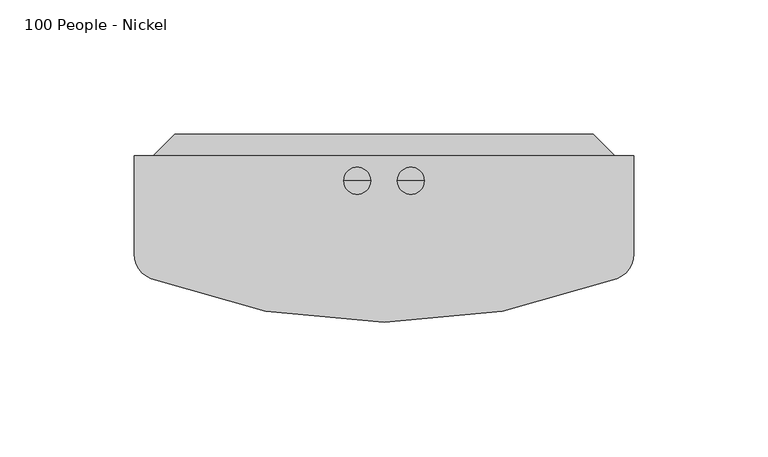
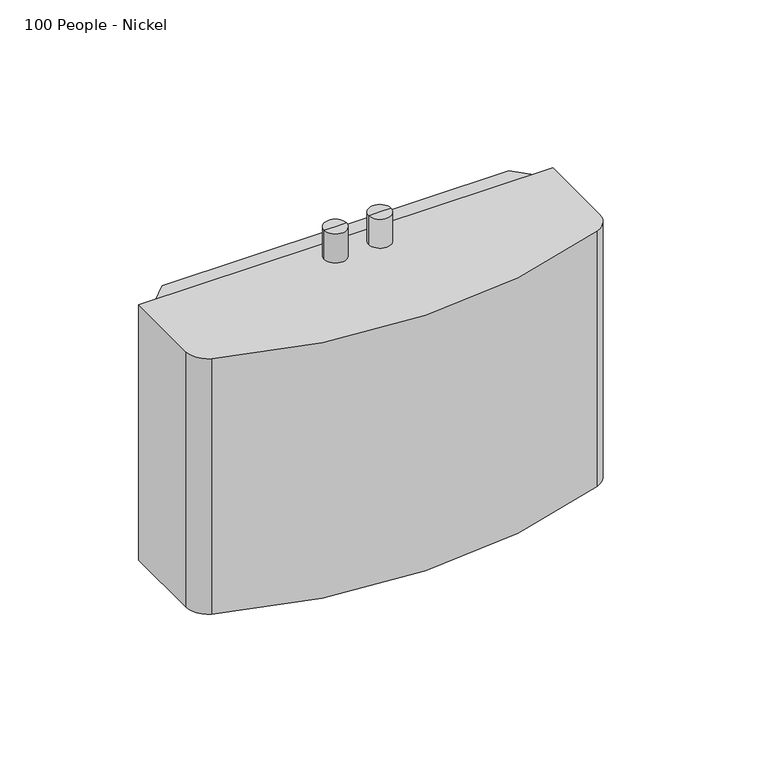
"""IFC4 building model written with IfcOpenShell, lengths in millimetres: flow terminal geometry, PlumFixt_Zip Commercial_Cube_BC : 100 People - Nickel."""

from ifc_helpers import new_model, si_unit, point, frame, frame_2d, origin, place, context, project, spatial, polyline, circle_curve, trimmed, segment, composite_curve, outline, extrude, source, transform, mapped, element, save
from ifc_brep_helpers import plane_surface, cylinder_surface, advanced_brep


def flow_terminal_100_people_nickel_19c471c0(model_context):
    return source(origin(), model_context, "Body", "SolidModel", [
        advanced_brep(
        [(-9.0, 248.188161, 673.0), (-14.0, 248.188161, 673.0), (-4.0, 248.188161, 673.0), (-4.0, 248.188161, 659.25), (-14.0, 248.188161, 659.25), (-9.0, 248.188161, 659.25)],
        [
            (0, 1),
            (1, 2, circle_curve(frame((-9.0, 248.188161, 673.0), z_axis=(0.0, 0.0, 1.0), x_axis=(-1.0, 0.0, 0.0)), 5.0)),
            (2, 0),
            (2, 1, circle_curve(frame((-9.0, 248.188161, 673.0), z_axis=(0.0, 0.0, 1.0), x_axis=(-1.0, 0.0, 0.0)), 5.0)),
            (3, 4, circle_curve(frame((-9.0, 248.188161, 659.25), z_axis=(0.0, 0.0, -1.0), x_axis=(-1.0, 0.0, 0.0)), 5.0)),
            (4, 5),
            (5, 3),
            (4, 3, circle_curve(frame((-9.0, 248.188161, 659.25), z_axis=(0.0, 0.0, -1.0), x_axis=(-1.0, 0.0, 0.0)), 5.0)),
            (1, 4),
            (3, 2),
        ],
        [
            plane_surface(frame((-9.0, 248.188161, 673.0), z_axis=(0.0, 0.0, 1.0), x_axis=(-1.0, 0.0, 0.0))),
            plane_surface(frame((-9.0, 248.188161, 659.25), z_axis=(0.0, 0.0, -1.0), x_axis=(-1.0, 0.0, 0.0))),
            cylinder_surface(frame((-9.0, 248.188161, 661.734876), z_axis=(0.0, 0.0, 1.0), x_axis=(-1.0, 0.0, 0.0)), 5.0),
        ],
        [
            (0, [[1, 2, 3]]),
            (0, [[-3, 4, -1]]),
            (1, [[5, 6, 7]]),
            (1, [[8, -7, -6]]),
            (2, [[-2, 9, -5, 10]]),
            (2, [[-4, -10, -8, -9]]),
        ],
    ),
        advanced_brep(
        [(6.0, 248.188161, 673.0), (16.0, 248.188161, 673.0), (11.0, 248.188161, 673.0), (11.0, 248.188161, 659.25), (16.0, 248.188161, 659.25), (6.0, 248.188161, 659.25)],
        [
            (0, 1, circle_curve(frame((11.0, 248.188161, 673.0), z_axis=(0.0, 0.0, 1.0), x_axis=(1.0, 0.0, 0.0)), 5.0)),
            (1, 2),
            (2, 0),
            (1, 0, circle_curve(frame((11.0, 248.188161, 673.0), z_axis=(0.0, 0.0, 1.0), x_axis=(1.0, 0.0, 0.0)), 5.0)),
            (3, 4),
            (4, 5, circle_curve(frame((11.0, 248.188161, 659.25), z_axis=(0.0, 0.0, -1.0), x_axis=(1.0, 0.0, 0.0)), 5.0)),
            (5, 3),
            (5, 4, circle_curve(frame((11.0, 248.188161, 659.25), z_axis=(0.0, 0.0, -1.0), x_axis=(1.0, 0.0, 0.0)), 5.0)),
            (4, 1),
            (0, 5),
        ],
        [
            plane_surface(frame((11.0, 248.188161, 673.0), z_axis=(0.0, 0.0, 1.0), x_axis=(1.0, 0.0, 0.0))),
            plane_surface(frame((11.0, 248.188161, 659.25), z_axis=(0.0, 0.0, -1.0), x_axis=(1.0, 0.0, 0.0))),
            cylinder_surface(frame((11.0, 248.188161, 661.734876), z_axis=(0.0, 0.0, -1.0), x_axis=(1.0, 0.0, 0.0)), 5.0),
        ],
        [
            (0, [[1, 2, 3]]),
            (0, [[4, -3, -2]]),
            (1, [[5, 6, 7]]),
            (1, [[-7, 8, -5]]),
            (2, [[-6, 9, -1, 10]]),
            (2, [[-8, -10, -4, -9]]),
        ],
    ),
        extrude(outline(polyline([(78.9446111, 265.5), (86.9446111, 257.5), (-84.9446111, 257.5), (-76.9446111, 265.5), (78.9446111, 265.5)])), frame((0.0, 0.0, 539.0), z_axis=(0.0, 0.0, 1.0), x_axis=(1.0, 0.0, 0.0)), (0.0, 0.0, 1.0), 119.25),
        extrude(outline(composite_curve([segment(polyline([(-92.0, 257.5), (94.0, 257.5), (94.0, 221.0019385)]), True, "CONTINUOUS"), segment(trimmed(circle_curve(frame_2d((84.0, 221.0019385)), 10.0), [point((94.0, 221.0019385))], [point((87.6094962, 211.6760854))], False, "CARTESIAN"), True, "CONTINUOUS"), segment(trimmed(circle_curve(frame_2d((1.0, 435.4489865)), 239.9489865), [point((87.6094962, 211.6760854))], [point((-85.6094962, 211.6760854))], False, "CARTESIAN"), True, "CONTINUOUS"), segment(trimmed(circle_curve(frame_2d((-82.0, 221.0019385)), 10.0), [point((-85.6094962, 211.6760854))], [point((-92.0, 221.0019385))], False, "CARTESIAN"), True, "CONTINUOUS"), segment(polyline([(-92.0, 221.0019385), (-92.0, 257.5)]), True, "CONTINUOUS")], self_intersect=False)), frame((0.0, 0.0, 538.0), z_axis=(0.0, 0.0, 1.0), x_axis=(1.0, 0.0, 0.0)), (0.0, 0.0, 1.0), 121.25),
    ])


if __name__ == "__main__":
    model = new_model("IFC4")
    model_context = context("Model", 3, world=origin())
    ifc_project = project(units=[si_unit("LENGTHUNIT", "METRE", prefix="MILLI")], contexts=[model_context])
    site = spatial("IfcSite", under=ifc_project)
    building = spatial("IfcBuilding", under=site)
    placement = place(None, origin())
    flow_terminal_100_people_nickel_shape = flow_terminal_100_people_nickel_19c471c0(model_context)
    element("IfcFlowTerminal", 1, ObjectType="PlumFixt_Zip Commercial_Cube_BC : 100 People - Nickel", at=placement, inside=building, context=model_context, shape_type="MappedRepresentation", body=[
        mapped(flow_terminal_100_people_nickel_shape, transform((0.0, 0.0, 0.0), x_axis=(1.0, 0.0, 0.0), y_axis=(0.0, 1.0, 0.0), z_axis=(0.0, 0.0, 1.0))),
    ])
    save(model, "model.ifc")
